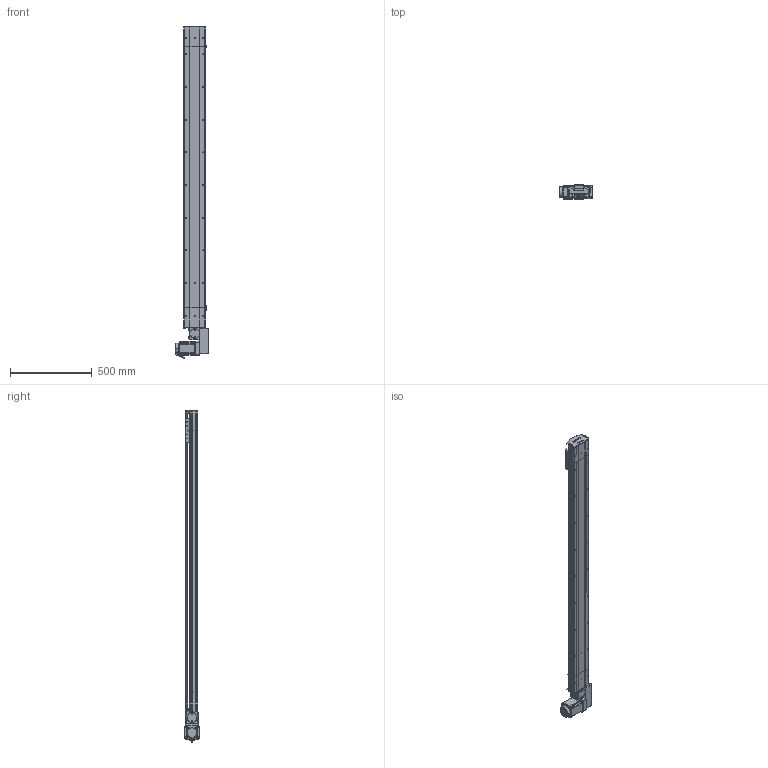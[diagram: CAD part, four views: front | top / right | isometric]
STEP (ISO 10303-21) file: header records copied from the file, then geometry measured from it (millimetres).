
FILE_DESCRIPTION (( 'STEP AP214' ), '1' );
FILE_NAME ('D14 TBH LH S1600.STEP', '2010-06-29T14:05:30', ( 'Conseil Régional Haute-Normandie' ), ( 'Conseil Régional Haute-Normandie' ), 'SwSTEP 2.0', 'SolidWorks 2010', '' );
FILE_SCHEMA (( 'AUTOMOTIVE_DESIGN' ));
Length unit declared in the file: millimetre
Products named in the file (39): corpl tail D14_Default; vis M5 L16_Default; Arbre+rail tail D14; Cache arbre_Default; plaque de  bout tail D14_Default; couvercle D14_Default; tete d''axe haut D14; Conecteur2_Default; codeur 90BLDC100-640; vis M5 L8 90°_Default; Plaque racord D14_Default; Conecteur_Default; Couroie_Default; Arbre+rail head D14; Cache_Default; corps 90BLDC100A-640; couvercle D14 head_Default; Moteur motionking 90BLDC100A-640; poulie head_Default; poulie tail_Default; avant 90BLDC100A-640; plaque de  bout head D14 LH_Default; corp head D14_Default; couroie 2_Default; D14 TB H LH_Default; renvoi LH_Default; Cvis M5 L70_Default; vis M5 L5_Default; Chariot D14; vis M5 L12_Default; guide D14; Vis M5 L16-2_Default; chariot D14B_Default; couvercle D14 course L1600_Default; corpl 1600_Default; D14 couroie L1600_Default; Tail D14B_Default; D14 TBH LH S1600; Rail + couroie D14 Course 1600 
Assembly tree (68 placements, depth 4):
  D14 TBH LH S1600
    chariot D14B_Default
      vis M5 L12_Default  x4
      Chariot D14
      guide D14  x2
    D14 TB H LH_Default
      vis M5 L12_Default  x12
      corp head D14_Default
      Arbre+rail head D14
      Vis M5 L16-2_Default  x4
      couroie 2_Default
      vis M5 L5_Default  x2
      Cache_Default  x2
      Cvis M5 L70_Default  x4
      renvoi LH_Default
      Moteur motionking 90BLDC100A-640
        codeur 90BLDC100-640
        avant 90BLDC100A-640
        Conecteur_Default
        corps 90BLDC100A-640
        Conecteur2_Default
      plaque de  bout head D14 LH_Default
      Plaque racord D14_Default
      couvercle D14 head_Default
      poulie head_Default
      Cache arbre_Default
    Tail D14B_Default
      tete d''axe haut D14
      vis M5 L8 90°_Default  x2
      plaque de  bout tail D14_Default
      Arbre+rail tail D14
      vis M5 L12_Default  x4
      vis M5 L16_Default  x2
      corpl tail D14_Default
      poulie tail_Default
      Couroie_Default
      couvercle D14_Default
    D14 couroie L1600_Default
      corpl 1600_Default
      couvercle D14 course L1600_Default
      Rail + couroie D14 Course 1600 
Bounding box: 207.2 x 85.9 x 2032.45 mm (x, y, z)
Volume: 7911025.5 mm3; surface area: 2707190 mm2
Topology: 92 solids, 92 shells, 2661 faces, 6503 edges, 4194 vertices
Faces by surface type: plane 1597, cylinder 751, bspline 136, torus 89, cone 84, sphere 4
Entity records: 80108 total; most frequent: CARTESIAN_POINT 23697, ORIENTED_EDGE 9866, DIRECTION 9680, EDGE_CURVE 4933, LINE 3298, VECTOR 3298, VERTEX_POINT 3244, AXIS2_PLACEMENT_3D 3191
